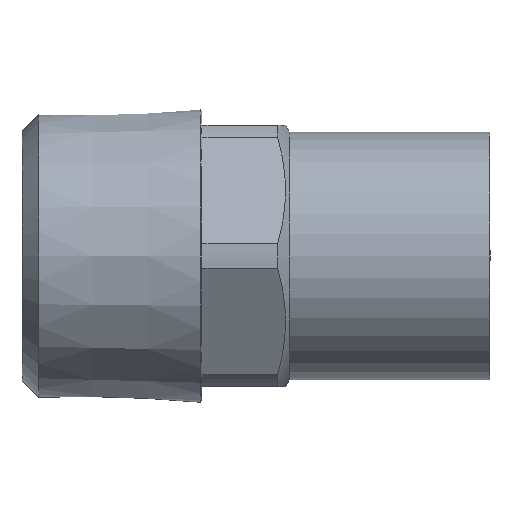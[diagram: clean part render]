
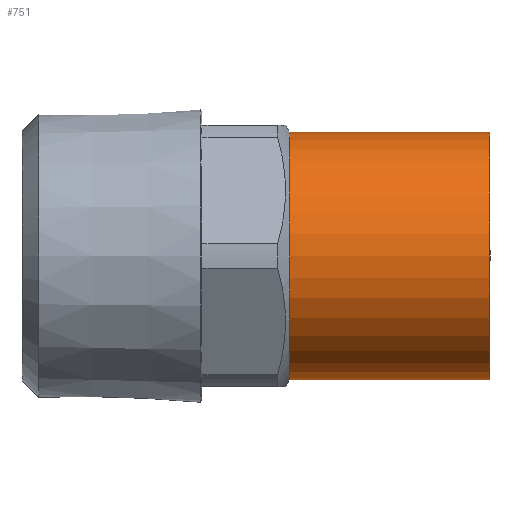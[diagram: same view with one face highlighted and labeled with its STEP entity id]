
A CAD part, front view. The second image highlights one B-rep face of the part: STEP entity #751.
In plain terms, the highlighted cylindrical face has radius 9 mm (diameter 18 mm), a full revolution.
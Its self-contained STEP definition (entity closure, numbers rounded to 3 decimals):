
#720=CARTESIAN_POINT('',(19.439,9.,0.0));
#721=VERTEX_POINT('',#720);
#722=CARTESIAN_POINT('',(19.439,0.0,0.0));
#723=DIRECTION('',(1.0,0.0,0.0));
#724=DIRECTION('',(0.0,1.0,0.0));
#725=AXIS2_PLACEMENT_3D('',#722,#723,#724);
#726=CIRCLE('',#725,9.);
#727=EDGE_CURVE('',#721,#721,#726,.T.);
#732=CARTESIAN_POINT('',(26.719,0.0,0.0));
#733=DIRECTION('',(1.0,0.0,0.0));
#734=DIRECTION('',(0.0,1.0,0.0));
#735=AXIS2_PLACEMENT_3D('',#732,#733,#734);
#736=CYLINDRICAL_SURFACE('',#735,9.0);
#737=CARTESIAN_POINT('',(34.0,9.0,0.0));
#738=VERTEX_POINT('',#737);
#739=CARTESIAN_POINT('',(34.0,0.0,0.0));
#740=DIRECTION('',(1.0,0.0,0.0));
#741=DIRECTION('',(0.0,1.0,0.0));
#742=AXIS2_PLACEMENT_3D('',#739,#740,#741);
#743=CIRCLE('',#742,9.0);
#744=EDGE_CURVE('',#738,#738,#743,.T.);
#745=ORIENTED_EDGE('',*,*,#744,.F.);
#746=EDGE_LOOP('',(#745));
#747=FACE_OUTER_BOUND('',#746,.T.);
#748=ORIENTED_EDGE('',*,*,#727,.T.);
#749=EDGE_LOOP('',(#748));
#750=FACE_BOUND('',#749,.T.);
#751=ADVANCED_FACE('',(#747,#750),#736,.T.);
